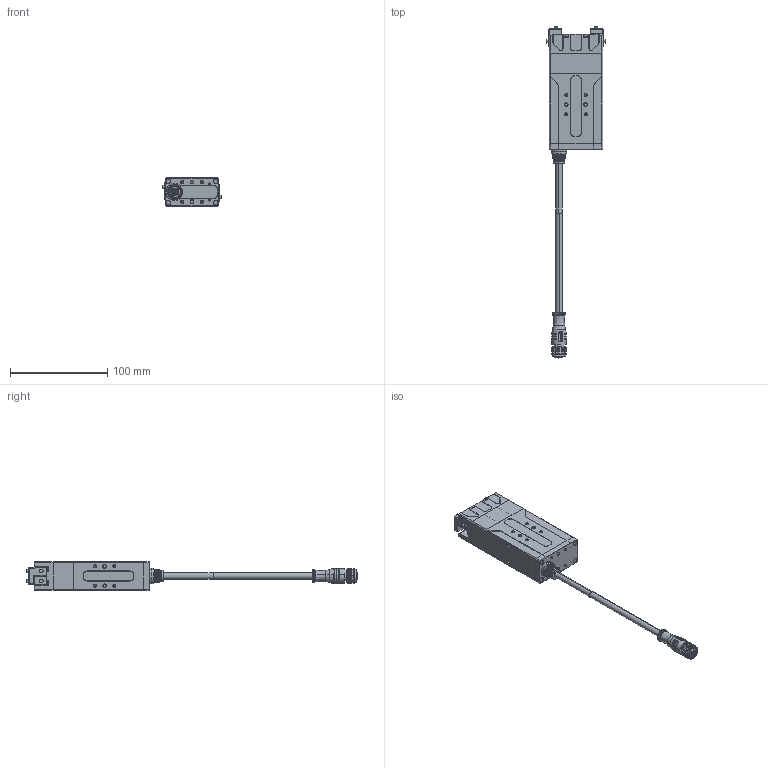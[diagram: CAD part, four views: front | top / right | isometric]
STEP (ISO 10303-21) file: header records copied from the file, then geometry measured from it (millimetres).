
FILE_DESCRIPTION (( 'STEP AP214' ), '1' );
FILE_NAME ('PGE-50-26-W-B.STEP', '2023-07-19T03:26:52', ( '' ), ( '' ), 'SwSTEP 2.0', 'SolidWorks 2020', '' );
FILE_SCHEMA (( 'AUTOMOTIVE_DESIGN' ));
Length unit declared in the file: millimetre
Products named in the file (3): PGE-50-26-W-B; 菁堤褲惕掅儂倰; PGE50忒硌價釱
Assembly tree (3 placements, depth 2):
  PGE-50-26-W-B
    菁堤褲惕掅儂倰
    PGE50忒硌價釱  x2
Bounding box: 59.8 x 341.3 x 29 mm (x, y, z)
Volume: 12225.4 mm3; surface area: 53136 mm2
Topology: 6 solids, 20 shells, 1748 faces, 4235 edges, 2617 vertices
Faces by surface type: plane 728, cylinder 401, cone 339, bspline 249, torus 30, sphere 1
Full cylindrical faces by diameter (mm): 11.1 x3
Entity records: 82384 total; most frequent: CARTESIAN_POINT 27983, ORIENTED_EDGE 7894, DIRECTION 6842, EDGE_CURVE 3951, VERTEX_POINT 2472, AXIS2_PLACEMENT_3D 2470, VECTOR 1902, LINE 1902
